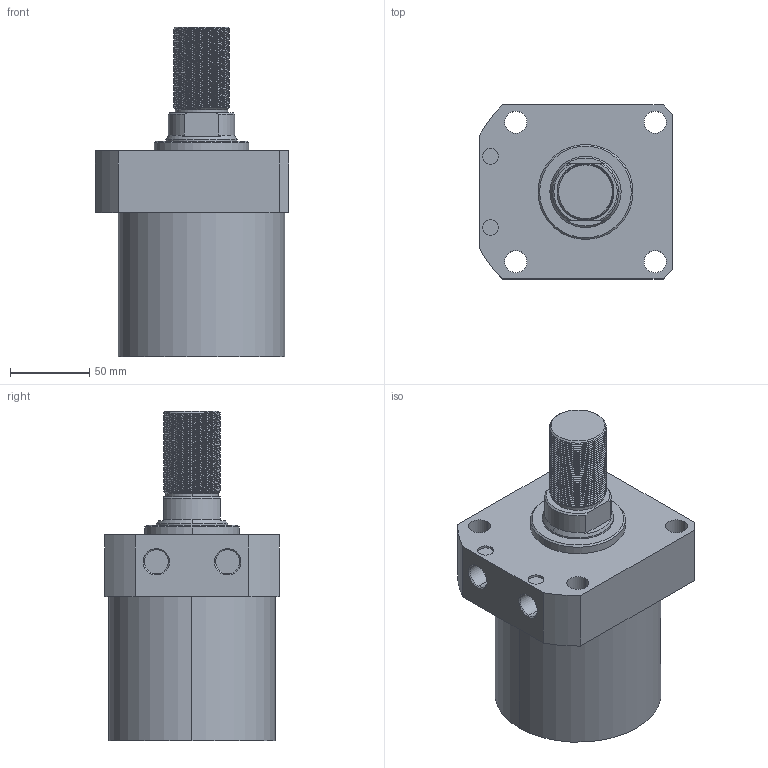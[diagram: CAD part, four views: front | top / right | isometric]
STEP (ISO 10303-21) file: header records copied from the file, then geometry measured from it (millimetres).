
FILE_DESCRIPTION (( 'STEP AP214' ), '1' );
FILE_NAME ('CLLR-105CT-070.STEP', '2020-01-09T08:06:44', ( 'Windows' ), ( 'Microsoft' ), 'SwSTEP 2.0', 'SolidWorks 2015', '' );
FILE_SCHEMA (( 'AUTOMOTIVE_DESIGN' ));
Length unit declared in the file: millimetre
Products named in the file (1): CLLR-105CT-070
Bounding box: 122 x 110 x 208 mm (x, y, z)
Volume: 1360966.8 mm3; surface area: 94254 mm2
Topology: 1 solids, 1 shells, 135 faces, 362 edges, 237 vertices
Faces by surface type: cylinder 97, plane 20, cone 16, bspline 2
Entity records: 7910 total; most frequent: CARTESIAN_POINT 4851, ORIENTED_EDGE 724, DIRECTION 556, EDGE_CURVE 362, VERTEX_POINT 237, AXIS2_PLACEMENT_3D 211, EDGE_LOOP 151, ADVANCED_FACE 135
